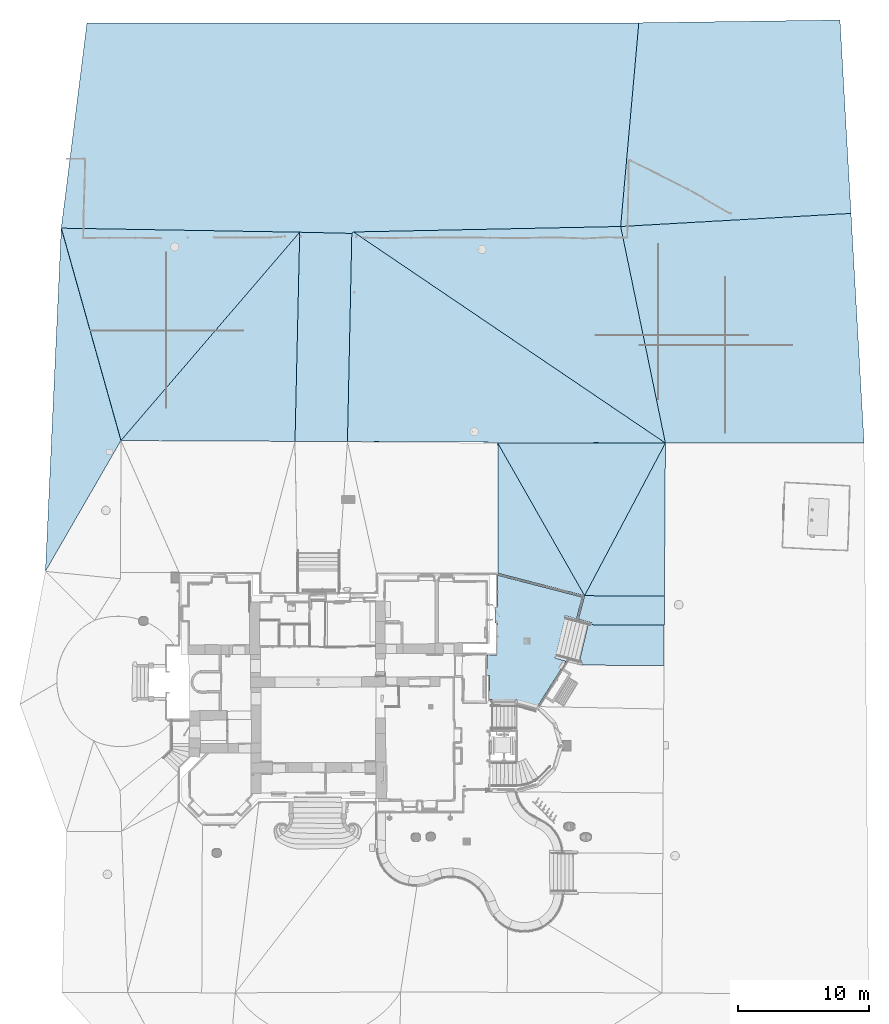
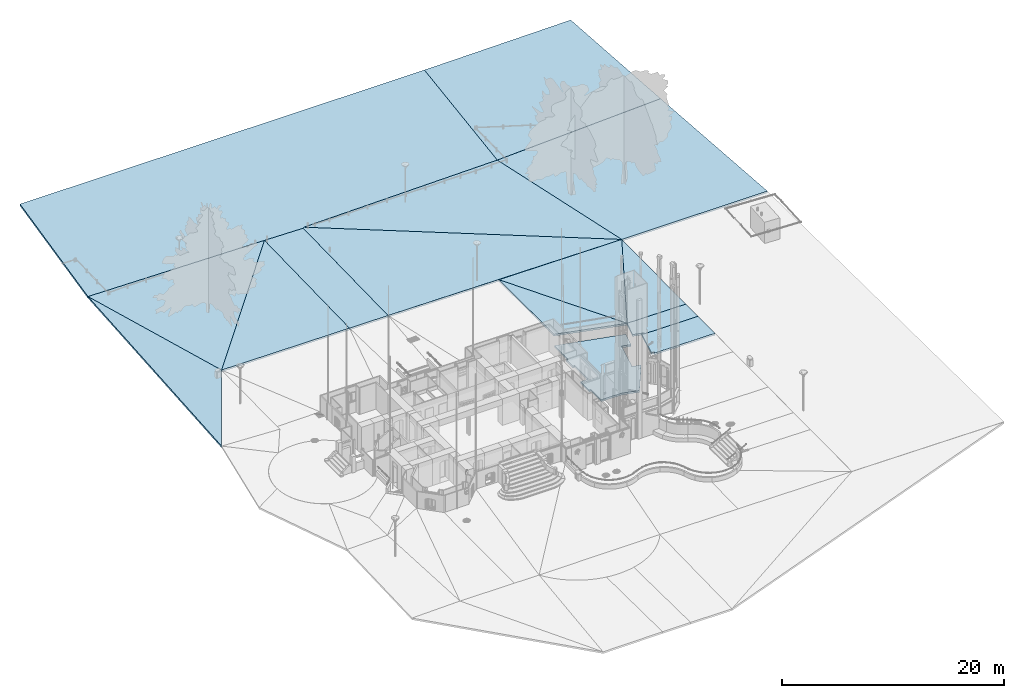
# One storey, part 8 of 133: 15 slabs.
"""IFC2X3 building model written with IfcOpenShell, lengths in centimetres."""

from ifc_helpers import new_model, entity, si_unit, converted_unit, point, direction, frame, frame_2d, origin, origin_with_axes, place, context, subcontext, project, spatial, polyline, circle_curve, trimmed, segment, composite_curve, outline, extrude, material, layer, layer_set, layer_usage, type_object, element, save


model = new_model("IFC2X3")

# Units and contexts
model_context = context("Model", 3, precision=0.0001, world=origin(), true_north=direction((0.225632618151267, 0.974212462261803, 0.0)))
body_context = subcontext(model_context, "Body", "Model", "MODEL_VIEW")
ifc_project = project(units=[si_unit("LENGTHUNIT", "METRE", prefix="CENTI"), si_unit("AREAUNIT", "SQUARE_METRE", prefix="CENTI"), si_unit("VOLUMEUNIT", "CUBIC_METRE", prefix="CENTI"), converted_unit("PLANEANGLEUNIT", "DEGREE", entity("IfcRatioMeasure", 0.0174532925), si_unit("PLANEANGLEUNIT", "RADIAN"), dimensions=[0, 0, 0, 0, 0, 0, 0])], contexts=[model_context])

# Site, building, storey
site_placement = place(None, origin_with_axes())
site = spatial("IfcSite", under=ifc_project, at=site_placement, Name="Default Site", CompositionType="ELEMENT")
building_placement = place(site_placement, origin_with_axes())
building = spatial("IfcBuilding", under=site, at=building_placement, Name="Default Building", CompositionType="ELEMENT")
storey_placement = place(building_placement, frame((0.0, 0.0, -291.400371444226), z_axis=(0.0, 0.0, 1.0), x_axis=(1.0, 0.0, 0.0)))
storey = spatial("IfcBuildingStorey", under=building, at=storey_placement, Name="Rez-de-Jardin", CompositionType="ELEMENT", Elevation=-291.400371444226)

# Slabs
ifc_material_1 = material(Name="Carreaux en céramique")
ifc_layer_1 = layer(ifc_material_1, 1.5)
ifc_material_2 = material(Name="Chape en béton léger")
ifc_layer_2 = layer(ifc_material_2, 4.0)
ifc_material_3 = material(Name="Béton armé")
ifc_layer_3 = layer(ifc_material_3, 13.0)
ifc_material_4 = material(Name="Enduit de chaux et plâtre")
ifc_layer_4 = layer(ifc_material_4, 1.5)
ifc_layer_set = layer_set([ifc_layer_1, ifc_layer_2, ifc_layer_3, ifc_layer_4], Name="Dalle en béton armé")
ifc_layer_usage_1 = layer_usage(ifc_layer_set, "AXIS3", "POSITIVE", 0.0)
slab_type_1 = type_object("IfcSlabType", Name="Dalle en béton armé 200", PredefinedType="NOTDEFINED", material=ifc_layer_set)
slab_1_placement = place(storey_placement, frame((2097.21965384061, 3406.52784031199, 78.0006634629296), z_axis=(-0.000307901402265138, 0.00539507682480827, 0.999985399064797), x_axis=(0.202399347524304, -0.979288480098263, 0.0053457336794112)))
element("IfcSlab", 1, at=slab_1_placement, inside=storey, type_object=slab_type_1, material=ifc_layer_usage_1, Name="Dalle 1824248", PredefinedType="NOTDEFINED", context=body_context, shape_type="SweptSolid", body=[
    extrude(outline(polyline([(-0.000239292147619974, 2.5408936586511e-08), (1683.58559411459, -1.52411416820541e-09), (1989.97233716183, 1481.53528106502), (257.385315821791, 1738.10387749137), (-0.000239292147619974, 2.5408936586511e-08)])), origin_with_axes(), (0.0, 0.0, 1.0), 20.0),
])
ifc_layer_usage_2 = layer_usage(ifc_layer_set, "AXIS3", "POSITIVE", 0.0)
slab_2_placement = place(storey_placement, frame((62.8732549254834, 3365.06186220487, 78.1006680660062), z_axis=(-6.18472501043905e-05, 0.00544592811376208, 0.999985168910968), x_axis=(0.999792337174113, 0.0203784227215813, -4.91457473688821e-05)))
element("IfcSlab", 2, at=slab_2_placement, inside=storey, type_object=slab_type_1, material=ifc_layer_usage_2, Name="Dalle 1824247", PredefinedType="NOTDEFINED", context=body_context, shape_type="SweptSolid", body=[
    extrude(outline(polyline([(-4.43793627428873e-05, -1.57821011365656e-05), (2341.85109838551, -1655.34197389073), (2034.76398429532, 0.283498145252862), (-4.43793627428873e-05, -1.57821011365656e-05)])), origin_with_axes(), (0.0, 0.0, 1.0), 20.0),
])
ifc_layer_usage_3 = layer_usage(ifc_layer_set, "AXIS3", "POSITIVE", 0.0)
slab_3_placement = place(storey_placement, frame((62.8298870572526, 3364.99783978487, 78.1011634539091), z_axis=(0.00210444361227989, 0.00864700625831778, 0.999960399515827), x_axis=(0.828187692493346, -0.56044224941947, 0.0031033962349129)))
element("IfcSlab", 3, at=slab_3_placement, inside=storey, type_object=slab_type_1, material=ifc_layer_usage_3, Name="Dalle 1824246", PredefinedType="NOTDEFINED", context=body_context, shape_type="SweptSolid", body=[
    extrude(outline(polyline([(-8.55995294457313e-06, 2.42779595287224e-05), (-4.56513222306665, -16.039959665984), (856.548984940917, -1347.81302116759), (2867.82582931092, -0.000134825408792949), (-8.55995294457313e-06, 2.42779595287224e-05)])), origin_with_axes(), (0.0, 0.0, 1.0), 20.0),
])
ifc_layer_usage_4 = layer_usage(ifc_layer_set, "AXIS3", "POSITIVE", 0.0)
slab_4_placement = place(storey_placement, frame((2097.21349581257, 3406.63574184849, 78.0003714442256), z_axis=(0.0, 0.0, 1.0), x_axis=(0.0887328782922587, 0.99605545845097, 0.0)))
element("IfcSlab", 4, at=slab_4_placement, inside=storey, type_object=slab_type_1, material=ifc_layer_usage_4, Name="Dalle 1824249", PredefinedType="NOTDEFINED", context=body_context, shape_type="SweptSolid", body=[
    extrude(outline(polyline([(1557.44741989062, 0.0220286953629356), (0.282085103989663, 0.0309959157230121), (255.497318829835, -1738.38240627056), (1714.68479666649, -1524.16013167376), (1557.44741989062, 0.0220286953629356)])), origin_with_axes(), (0.0, 0.0, 1.0), 20.0),
])
ifc_layer_usage_5 = layer_usage(ifc_layer_set, "AXIS3", "POSITIVE", 0.0)
slab_5_placement = place(storey_placement, frame((-1708.10285784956, 1776.60663522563, 92.101155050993), z_axis=(4.02766390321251e-05, 0.00885197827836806, 0.999960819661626), x_axis=(0.999989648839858, -0.00454996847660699, 0.0)))
element("IfcSlab", 5, at=slab_5_placement, inside=storey, type_object=slab_type_1, material=ifc_layer_usage_5, Name="Dalle 1824267", PredefinedType="NOTDEFINED", context=body_context, shape_type="SweptSolid", body=[
    extrude(outline(polyline([(0.0, -1.4210854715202e-12), (1325.50598808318, 0.0220656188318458), (1354.14945368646, 1592.86894440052), (0.0, -1.4210854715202e-12)])), origin_with_axes(), (0.0, 0.0, 1.0), 20.0),
])
ifc_layer_usage_6 = layer_usage(ifc_layer_set, "AXIS3", "POSITIVE", 0.0)
slab_6_placement = place(storey_placement, frame((-2282.14615718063, 780.73370350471, 62.6203834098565), z_axis=(-0.0445558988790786, -0.00386875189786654, 0.998999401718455), x_axis=(0.499718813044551, 0.865808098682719, 0.025640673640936)))
element("IfcSlab", 6, at=slab_6_placement, inside=storey, type_object=slab_type_1, material=ifc_layer_usage_6, Name="Dalle 1824270", PredefinedType="NOTDEFINED", context=body_context, shape_type="SweptSolid", body=[
    extrude(outline(polyline([(-0.000561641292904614, -0.000290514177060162), (1150.5170574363, 8.08558009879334e-05), (2323.58833435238, 1202.89508317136), (-0.000561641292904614, -0.000290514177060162)])), origin_with_axes(), (0.0, 0.0, 1.0), 20.0),
])
ifc_layer_usage_7 = layer_usage(ifc_layer_set, "AXIS3", "POSITIVE", 0.0)
slab_7_placement = place(storey_placement, frame((-1708.10606187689, 1776.60922959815, 92.1011308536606), z_axis=(0.000203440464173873, 0.00871195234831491, 0.999962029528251), x_axis=(0.651181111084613, 0.758892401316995, -0.00674416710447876)))
element("IfcSlab", 7, at=slab_7_placement, inside=storey, type_object=slab_type_1, material=ifc_layer_usage_7, Name="Dalle 1824269", PredefinedType="NOTDEFINED", context=body_context, shape_type="SweptSolid", body=[
    extrude(outline(polyline([(931.767760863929, 1398.16357465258), (2090.6954739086, -4.07097065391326e-05), (-9.04367749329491e-05, -0.000133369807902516), (931.767760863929, 1398.16357465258)])), origin_with_axes(), (0.0, 0.0, 1.0), 20.0),
])
ifc_layer_usage_8 = layer_usage(ifc_layer_set, "AXIS3", "POSITIVE", 0.0)
slab_type_2 = type_object("IfcSlabType", Name="Dalle en béton armé 200", PredefinedType="NOTDEFINED", material=ifc_layer_set)
slab_8_placement = place(storey_placement, frame((45.6833449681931, 3878.28227398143, 78.0), z_axis=(0.0, 0.0, 1.0), x_axis=(1.0, 0.0, 0.0)))
element("IfcSlab", 8, at=slab_8_placement, inside=storey, type_object=slab_type_2, material=ifc_layer_usage_8, Name="Dalle 294964", PredefinedType="NOTDEFINED", context=body_context, shape_type="SweptSolid", body=[
    extrude(outline(polyline([(-2012.47668902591, 1077.79555244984), (-2208.13334496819, -483.962273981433), (-392.363905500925, -514.88592322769), (4.41847445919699, -523.837375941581), (17.1886309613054, -513.111494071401), (2051.53017904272, -471.646211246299), (2189.83665503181, 1079.64772601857), (-2012.47668902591, 1077.79555244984)])), origin_with_axes(), (0.0, 0.0, 1.0), 20.0),
])
ifc_layer_usage_9 = layer_usage(ifc_layer_set, "AXIS3", "POSITIVE", 0.0)
slab_9_placement = place(storey_placement, frame((-346.684540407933, 3363.21983698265, 78.0007793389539), z_axis=(0.000199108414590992, 0.00882568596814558, 0.999961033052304), x_axis=(0.999745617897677, -0.0225543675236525, 0.0)))
element("IfcSlab", 9, at=slab_9_placement, inside=storey, type_object=slab_type_2, material=ifc_layer_usage_9, Name="Dalle 294963", PredefinedType="NOTDEFINED", context=body_context, shape_type="SweptSolid", body=[
    extrude(outline(polyline([(-2.29365868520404e-06, -1593.1108184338), (399.427800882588, -1585.91752632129), (396.883339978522, 6.70196765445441e-05), (-4.02985390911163e-14, 6.70196732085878e-05), (-2.29365868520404e-06, -1593.1108184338)])), origin_with_axes(), (0.0, 0.0, 1.0), 20.0),
])
ifc_layer_usage_10 = layer_usage(ifc_layer_set, "AXIS3", "POSITIVE", 0.0)
slab_10_placement = place(storey_placement, frame((1466.9248291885, 268.645697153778, -20.0), z_axis=(0.0, 0.0, 1.0), x_axis=(1.0, 0.0, 0.0)))
element("IfcSlab", 10, at=slab_10_placement, inside=storey, type_object=slab_type_2, material=ifc_layer_usage_10, Name="Dalle 134278", PredefinedType="NOTDEFINED", context=body_context, shape_type="SweptSolid", body=[
    extrude(outline(composite_curve([segment(trimmed(circle_curve(frame_2d((132.393892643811, -127.363249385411), x_axis=(1.0, 0.0)), 5.4255726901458), [point((133.938589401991, -132.564283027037))], [point((137.538741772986, -129.085853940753))], True, "CARTESIAN"), True, "CONTINUOUS"), segment(polyline([(137.538741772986, -129.085853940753), (206.889917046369, 157.244453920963), (202.38078199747, 159.404940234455), (208.405170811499, 174.954302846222), (293.92388981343, 150.305499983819), (336.698804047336, 315.896684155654), (-308.844829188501, 483.134302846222), (-309.468021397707, 235.484672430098), (-329.03442641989, 236.016164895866), (-327.105582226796, 231.403187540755), (-327.064829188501, 119.854302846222), (-309.407617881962, 119.730420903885), (-309.910583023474, -123.425549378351), (-388.006333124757, -124.009812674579), (-390.022179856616, -280.847145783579), (-369.697366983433, -280.767981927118), (-370.732031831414, -464.821117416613), (-175.646319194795, -466.092650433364), (-155.458084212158, -467.671451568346), (0.191398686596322, -510.783933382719), (184.209388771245, -220.23727795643), (176.798578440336, -215.314471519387), (182.405835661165, -206.221494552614), (189.791210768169, -211.083898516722), (214.777636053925, -171.153013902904), (129.1831584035, -147.323919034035), (133.938589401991, -132.564283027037)]), True, "CONTINUOUS")], self_intersect=False)), origin_with_axes(), (0.0, 0.0, 1.0), 20.0),
])
ifc_layer_usage_11 = layer_usage(ifc_layer_set, "AXIS3", "POSITIVE", 0.0)
slab_11_placement = place(storey_placement, frame((1822.52148600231, 595.671242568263, 86.000380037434), z_axis=(-0.000824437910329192, -0.000423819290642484, 0.999999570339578), x_axis=(0.999979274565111, -0.00638554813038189, 0.000821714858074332)))
element("IfcSlab", 11, at=slab_11_placement, inside=storey, type_object=slab_type_2, material=ifc_layer_usage_11, Name="Dalle 294958", PredefinedType="NOTDEFINED", context=body_context, shape_type="SweptSolid", body=[
    extrude(outline(polyline([(608.031359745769, 1166.16349189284), (0.0, 5.32907051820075e-13), (608.008542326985, -0.0699660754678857), (608.031359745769, 1166.16349189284)])), origin_with_axes(), (0.0, 0.0, 1.0), 20.0),
])
ifc_layer_usage_12 = layer_usage(ifc_layer_set, "AXIS3", "POSITIVE", 0.0)
slab_12_placement = place(storey_placement, frame((1161.39947491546, 1757.30105721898, 92.0006111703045), z_axis=(0.00391878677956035, -0.00293522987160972, 0.999988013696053), x_axis=(0.999992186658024, 0.000530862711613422, -0.00391724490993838)))
element("IfcSlab", 12, at=slab_12_placement, inside=storey, type_object=slab_type_2, material=ifc_layer_usage_12, Name="Dalle 294957", PredefinedType="NOTDEFINED", context=body_context, shape_type="SweptSolid", body=[
    extrude(outline(polyline([(-0.0149172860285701, 0.0262434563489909), (660.42866460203, -1161.93569460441), (1276.50212345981, -0.000119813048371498), (-0.0149172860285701, 0.0262434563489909)])), origin_with_axes(), (0.0, 0.0, 1.0), 20.0),
])
ifc_layer_usage_13 = layer_usage(ifc_layer_set, "AXIS3", "POSITIVE", 0.0)
slab_13_placement = place(storey_placement, frame((1161.26352428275, 1757.25838586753, 92.0013685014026), z_axis=(0.00997213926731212, 0.000509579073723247, 0.999950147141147), x_axis=(0.494591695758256, -0.86911385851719, -0.00448947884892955)))
element("IfcSlab", 13, at=slab_13_placement, inside=storey, type_object=slab_type_2, material=ifc_layer_usage_13, Name="Dalle 294956", PredefinedType="NOTDEFINED", context=body_context, shape_type="SweptSolid", body=[
    extrude(outline(polyline([(0.00744115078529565, 0.0128688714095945), (861.206847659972, -489.257539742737), (1336.54075364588, 3.90798504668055e-12), (0.00744115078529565, 0.0128688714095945)])), origin_with_axes(), (0.0, 0.0, 1.0), 20.0),
])
ifc_layer_usage_14 = layer_usage(ifc_layer_set, "AXIS3", "POSITIVE", 0.0)
slab_14_placement = place(storey_placement, frame((2086.23618552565, 506.240781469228, 86.5), z_axis=(0.0, 0.0, 1.0), x_axis=(1.0, 0.0, 0.0)))
element("IfcSlab", 14, at=slab_14_placement, inside=storey, type_object=slab_type_2, material=ifc_layer_usage_14, Name="Dalle 294959", PredefinedType="NOTDEFINED", context=body_context, shape_type="SweptSolid", body=[
    extrude(outline(polyline([(344.287756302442, 85.539370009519), (-263.731260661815, 89.4217045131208), (-310.096329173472, -90.067763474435), (-204.823474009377, -117.775901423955), (-208.514219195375, -131.798326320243), (342.877526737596, -135.319083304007), (344.287756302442, 85.539370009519)])), origin_with_axes(), (0.0, 0.0, 1.0), 20.0),
])
ifc_layer_usage_15 = layer_usage(ifc_layer_set, "AXIS3", "POSITIVE", 0.0)
slab_15_placement = place(storey_placement, frame((2046.7480266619, 253.632734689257, 86.5), z_axis=(0.0, 0.0, 1.0), x_axis=(1.0, 0.0, 0.0)))
element("IfcSlab", 15, at=slab_15_placement, inside=storey, type_object=slab_type_2, material=ifc_layer_usage_15, Name="Dalle 294960", PredefinedType="NOTDEFINED", context=body_context, shape_type="SweptSolid", body=[
    extrude(outline(polyline([(-169.026060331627, 120.809720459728), (-195.855605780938, 127.871339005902), (-265.921942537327, -166.291421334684), (-239.312508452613, -172.664356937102), (-242.649977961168, -186.517965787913), (380.40040946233, -190.496278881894), (382.365685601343, 117.288963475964), (-169.026060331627, 120.809720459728)])), origin_with_axes(), (0.0, 0.0, 1.0), 20.0),
])

save(model, "model.ifc")
